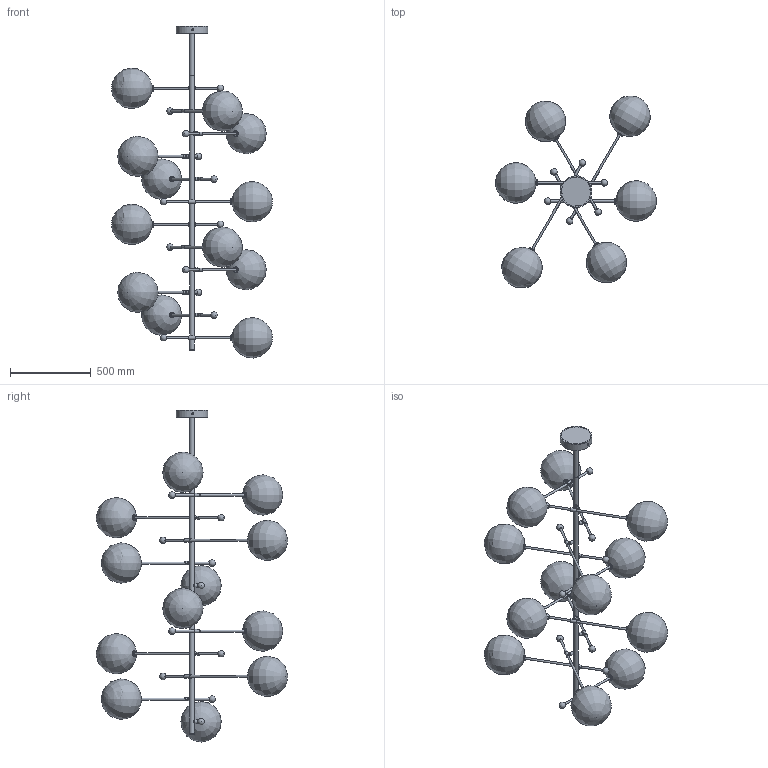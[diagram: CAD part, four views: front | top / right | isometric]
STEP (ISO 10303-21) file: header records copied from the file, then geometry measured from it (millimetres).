
FILE_DESCRIPTION(/* description */ (''),/* implementation_level */ '2;1');
FILE_NAME(/* name */ 'T:\B100 RD 15 12 ARM\Pliki bryłowe handlowe\B100 RD 15 12 Arms 3D files\B100 RD 15 12 Arms.stp',/* time_stamp */ '2022-01-20T12:31:31+01:00',/* author */ ('Mariusz Awariusz'),/* organization */ (''),/* preprocessor_version */ 'ST-DEVELOPER v18.1',/* originating_system */ 'Autodesk Inventor 2022',/* authorisation */ '');
FILE_SCHEMA (('AUTOMOTIVE_DESIGN { 1 0 10303 214 3 1 1 }'));
Length unit declared in the file: millimetre
Products named in the file (1): B100 RD 15 12 ARM CE_v2_na potrzeby plików 3D_2_jako część
Bounding box: 992.7 x 1183.66 x 2049.84 mm (x, y, z)
Volume: 8850777.2 mm3; surface area: 5301086.1 mm2
Topology: 1 solids, 25 shells, 690 faces, 1432 edges, 912 vertices
Faces by surface type: plane 274, cylinder 226, cone 118, bspline 36, torus 24, sphere 12
Full cylindrical faces by diameter (mm): 3 x18, 10 x12, 11.6 x24, 11.917 x24, 13 x48, 20 x12, 22 x24, 25.221 x12, 30 x3, 33 x12, 35 x12, 195 x1
Entity records: 21061 total; most frequent: CARTESIAN_POINT 6029, DIRECTION 3430, ORIENTED_EDGE 2768, AXIS2_PLACEMENT_3D 1473, EDGE_CURVE 1384, VERTEX_POINT 912, EDGE_LOOP 888, CIRCLE 806
